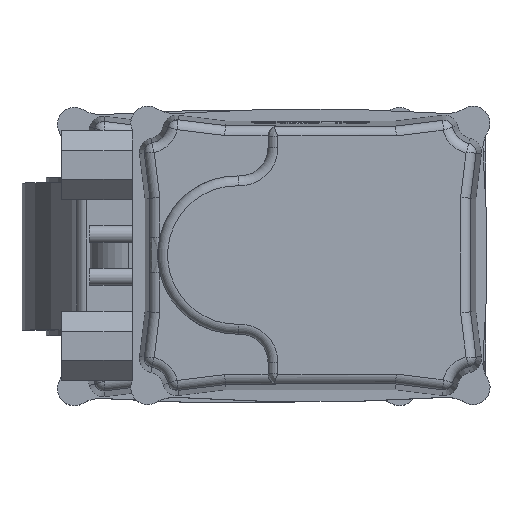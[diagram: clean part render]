
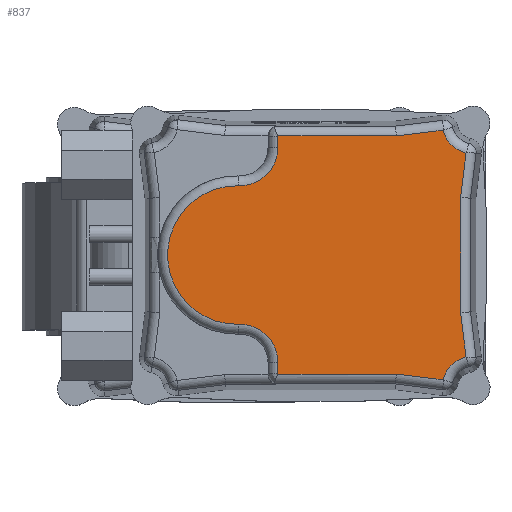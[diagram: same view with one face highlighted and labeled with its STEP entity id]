
A CAD part, top view. The second image highlights one B-rep face of the part: STEP entity #837.
In plain terms, the highlighted planar face has unit normal (0, 0, 1).
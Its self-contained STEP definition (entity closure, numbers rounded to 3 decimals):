
#837 = ADVANCED_FACE( '', ( #2124 ), #2125, .T. );
#2124 = FACE_OUTER_BOUND( '', #4885, .T. );
#2125 = PLANE( '', #4886 );
#4885 = EDGE_LOOP( '', ( #10435, #10436, #10437, #10438, #10439, #10440, #10441, #10442, #10443, #10444, #10445, #10446, #10447, #10448, #10449, #10450 ) );
#4886 = AXIS2_PLACEMENT_3D( '', #10451, #10452, #10453 );
#10435 = ORIENTED_EDGE( '', *, *, #15596, .T. );
#10436 = ORIENTED_EDGE( '', *, *, #15597, .T. );
#10437 = ORIENTED_EDGE( '', *, *, #15598, .T. );
#10438 = ORIENTED_EDGE( '', *, *, #15599, .T. );
#10439 = ORIENTED_EDGE( '', *, *, #15600, .T. );
#10440 = ORIENTED_EDGE( '', *, *, #15601, .T. );
#10441 = ORIENTED_EDGE( '', *, *, #15602, .T. );
#10442 = ORIENTED_EDGE( '', *, *, #15603, .T. );
#10443 = ORIENTED_EDGE( '', *, *, #15604, .T. );
#10444 = ORIENTED_EDGE( '', *, *, #15605, .T. );
#10445 = ORIENTED_EDGE( '', *, *, #15606, .T. );
#10446 = ORIENTED_EDGE( '', *, *, #15607, .T. );
#10447 = ORIENTED_EDGE( '', *, *, #15608, .T. );
#10448 = ORIENTED_EDGE( '', *, *, #15609, .T. );
#10449 = ORIENTED_EDGE( '', *, *, #15610, .T. );
#10450 = ORIENTED_EDGE( '', *, *, #15611, .T. );
#10451 = CARTESIAN_POINT( '', ( 47.227, -44.578, 84. ) );
#10452 = DIRECTION( '', ( 0., 0., 1. ) );
#10453 = DIRECTION( '', ( 1., 0., 0. ) );
#15596 = EDGE_CURVE( '', #17993, #17994, #17995, .T. );
#15597 = EDGE_CURVE( '', #17994, #17996, #17997, .T. );
#15598 = EDGE_CURVE( '', #17996, #17998, #17999, .F. );
#15599 = EDGE_CURVE( '', #17998, #18000, #18001, .T. );
#15600 = EDGE_CURVE( '', #18000, #18002, #18003, .T. );
#15601 = EDGE_CURVE( '', #18002, #18004, #18005, .T. );
#15602 = EDGE_CURVE( '', #18004, #18006, #18007, .T. );
#15603 = EDGE_CURVE( '', #18006, #18008, #18009, .F. );
#15604 = EDGE_CURVE( '', #18008, #18010, #18011, .T. );
#15605 = EDGE_CURVE( '', #18010, #18012, #18013, .F. );
#15606 = EDGE_CURVE( '', #18012, #18014, #18015, .T. );
#15607 = EDGE_CURVE( '', #18014, #18016, #18017, .T. );
#15608 = EDGE_CURVE( '', #18016, #18018, #18019, .T. );
#15609 = EDGE_CURVE( '', #18018, #18020, #18021, .T. );
#15610 = EDGE_CURVE( '', #18020, #18022, #18023, .F. );
#15611 = EDGE_CURVE( '', #18022, #17993, #18024, .T. );
#17993 = VERTEX_POINT( '', #22569 );
#17994 = VERTEX_POINT( '', #22570 );
#17995 = LINE( '', #22571, #22572 );
#17996 = VERTEX_POINT( '', #22573 );
#17997 = LINE( '', #22574, #22575 );
#17998 = VERTEX_POINT( '', #22576 );
#17999 = CIRCLE( '', #22577, 10.907 );
#18000 = VERTEX_POINT( '', #22578 );
#18001 = LINE( '', #22579, #22580 );
#18002 = VERTEX_POINT( '', #22581 );
#18003 = LINE( '', #22582, #22583 );
#18004 = VERTEX_POINT( '', #22584 );
#18005 = CIRCLE( '', #22585, 0.5 );
#18006 = VERTEX_POINT( '', #22586 );
#18007 = LINE( '', #22587, #22588 );
#18008 = VERTEX_POINT( '', #22589 );
#18009 = CIRCLE( '', #22590, 13.5 );
#18010 = VERTEX_POINT( '', #22591 );
#18011 = CIRCLE( '', #22592, 24.5 );
#18012 = VERTEX_POINT( '', #22593 );
#18013 = CIRCLE( '', #22594, 13.5 );
#18014 = VERTEX_POINT( '', #22595 );
#18015 = LINE( '', #22596, #22597 );
#18016 = VERTEX_POINT( '', #22598 );
#18017 = CIRCLE( '', #22599, 0.5 );
#18018 = VERTEX_POINT( '', #22600 );
#18019 = LINE( '', #22601, #22602 );
#18020 = VERTEX_POINT( '', #22603 );
#18021 = LINE( '', #22604, #22605 );
#18022 = VERTEX_POINT( '', #22606 );
#18023 = CIRCLE( '', #22607, 10.907 );
#18024 = LINE( '', #22608, #22609 );
#22569 = CARTESIAN_POINT( '', ( -53.093, 20.331, 84. ) );
#22570 = CARTESIAN_POINT( '', ( -53.093, -20.331, 84. ) );
#22571 = CARTESIAN_POINT( '', ( -53.093, -44.578, 84. ) );
#22572 = VECTOR( '', #28666, 1000. );
#22573 = CARTESIAN_POINT( '', ( -55.033, -36.126, 84. ) );
#22574 = CARTESIAN_POINT( '', ( -54.536, -32.083, 84. ) );
#22575 = VECTOR( '', #28667, 1000. );
#22576 = CARTESIAN_POINT( '', ( -46.913, -44.129, 84. ) );
#22577 = AXIS2_PLACEMENT_3D( '', #28668, #28669, #28670 );
#22578 = CARTESIAN_POINT( '', ( -30.331, -42.093, 84. ) );
#22579 = CARTESIAN_POINT( '', ( 45.775, -32.749, 84. ) );
#22580 = VECTOR( '', #28671, 1000. );
#22581 = CARTESIAN_POINT( '', ( 11.491, -42.093, 84. ) );
#22582 = CARTESIAN_POINT( '', ( 47.227, -42.093, 84. ) );
#22583 = VECTOR( '', #28672, 1000. );
#22584 = CARTESIAN_POINT( '', ( 11.5, -42., 84. ) );
#22585 = AXIS2_PLACEMENT_3D( '', #28673, #28674, #28675 );
#22586 = CARTESIAN_POINT( '', ( 11.5, -37.987, 84. ) );
#22587 = CARTESIAN_POINT( '', ( 11.5, -44.578, 84. ) );
#22588 = VECTOR( '', #28676, 1000. );
#22589 = CARTESIAN_POINT( '', ( 25.355, -24.492, 84. ) );
#22590 = AXIS2_PLACEMENT_3D( '', #28677, #28678, #28679 );
#22591 = CARTESIAN_POINT( '', ( 25.355, 24.492, 84. ) );
#22592 = AXIS2_PLACEMENT_3D( '', #28680, #28681, #28682 );
#22593 = CARTESIAN_POINT( '', ( 11.5, 37.987, 84. ) );
#22594 = AXIS2_PLACEMENT_3D( '', #28683, #28684, #28685 );
#22595 = CARTESIAN_POINT( '', ( 11.5, 42., 84. ) );
#22596 = CARTESIAN_POINT( '', ( 11.5, -44.578, 84. ) );
#22597 = VECTOR( '', #28686, 1000. );
#22598 = CARTESIAN_POINT( '', ( 11.491, 42.093, 84. ) );
#22599 = AXIS2_PLACEMENT_3D( '', #28687, #28688, #28689 );
#22600 = CARTESIAN_POINT( '', ( -30.331, 42.093, 84. ) );
#22601 = CARTESIAN_POINT( '', ( 47.227, 42.093, 84. ) );
#22602 = VECTOR( '', #28690, 1000. );
#22603 = CARTESIAN_POINT( '', ( -46.913, 44.129, 84. ) );
#22604 = CARTESIAN_POINT( '', ( 56.559, 31.425, 84. ) );
#22605 = VECTOR( '', #28691, 1000. );
#22606 = CARTESIAN_POINT( '', ( -55.033, 36.126, 84. ) );
#22607 = AXIS2_PLACEMENT_3D( '', #28692, #28693, #28694 );
#22608 = CARTESIAN_POINT( '', ( -43.752, -55.749, 84. ) );
#22609 = VECTOR( '', #28695, 1000. );
#28666 = DIRECTION( '', ( 0., -1., 0. ) );
#28667 = DIRECTION( '', ( -0.122, -0.993, 0. ) );
#28668 = CARTESIAN_POINT( '', ( -57.5, -46.75, 84. ) );
#28669 = DIRECTION( '', ( 0., 0., 1. ) );
#28670 = DIRECTION( '', ( 1., 0., 0. ) );
#28671 = DIRECTION( '', ( 0.993, 0.122, 0. ) );
#28672 = DIRECTION( '', ( 1., 0., 0. ) );
#28673 = CARTESIAN_POINT( '', ( 11., -42., 84. ) );
#28674 = DIRECTION( '', ( 0., 0., 1. ) );
#28675 = DIRECTION( '', ( 1., 0., 0. ) );
#28676 = DIRECTION( '', ( 0., 1., 0. ) );
#28677 = CARTESIAN_POINT( '', ( 25., -37.987, 84. ) );
#28678 = DIRECTION( '', ( 0., 0., 1. ) );
#28679 = DIRECTION( '', ( 1., 0., 0. ) );
#28680 = CARTESIAN_POINT( '', ( 26., 0., 84. ) );
#28681 = DIRECTION( '', ( 0., 0., 1. ) );
#28682 = DIRECTION( '', ( 1., 0., 0. ) );
#28683 = CARTESIAN_POINT( '', ( 25., 37.987, 84. ) );
#28684 = DIRECTION( '', ( 0., 0., 1. ) );
#28685 = DIRECTION( '', ( 1., 0., 0. ) );
#28686 = DIRECTION( '', ( 0., 1., 0. ) );
#28687 = CARTESIAN_POINT( '', ( 11., 42., 84. ) );
#28688 = DIRECTION( '', ( 0., 0., 1. ) );
#28689 = DIRECTION( '', ( 1., 0., 0. ) );
#28690 = DIRECTION( '', ( -1., 0., 0. ) );
#28691 = DIRECTION( '', ( -0.993, 0.122, 0. ) );
#28692 = CARTESIAN_POINT( '', ( -57.5, 46.75, 84. ) );
#28693 = DIRECTION( '', ( 0., 0., 1. ) );
#28694 = DIRECTION( '', ( 1., 0., 0. ) );
#28695 = DIRECTION( '', ( 0.122, -0.993, 0. ) );
